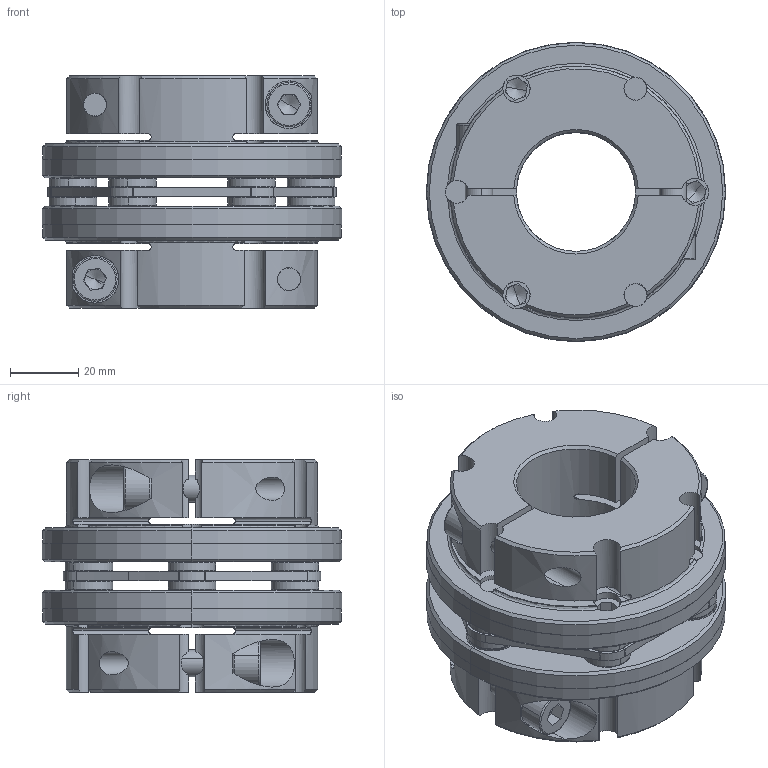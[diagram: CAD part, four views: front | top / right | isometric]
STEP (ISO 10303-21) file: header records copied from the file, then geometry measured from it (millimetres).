
FILE_DESCRIPTION (( 'STEP AP203' ), '1' );
FILE_NAME ('SCDS-88C-TYPE3(35X35).STEP', '2021-12-27T02:00:16', ( '' ), ( '' ), 'SwSTEP 2.0', 'SolidWorks 2021', '' );
FILE_SCHEMA (( 'CONFIG_CONTROL_DESIGN' ));
Length unit declared in the file: millimetre
Products named in the file (1): SCDS-88C-TYPE3(35X35)
Bounding box: 88 x 88 x 68.3 mm (x, y, z)
Volume: 220122.9 mm3; surface area: 70503.6 mm2
Topology: 1 solids, 13 shells, 725 faces, 1815 edges, 1122 vertices
Faces by surface type: cylinder 271, plane 218, cone 128, torus 108
Entity records: 22970 total; most frequent: CARTESIAN_POINT 5069, DIRECTION 4047, ORIENTED_EDGE 3590, EDGE_CURVE 1795, AXIS2_PLACEMENT_3D 1668, VERTEX_POINT 1122, CIRCLE 942, EDGE_LOOP 809
